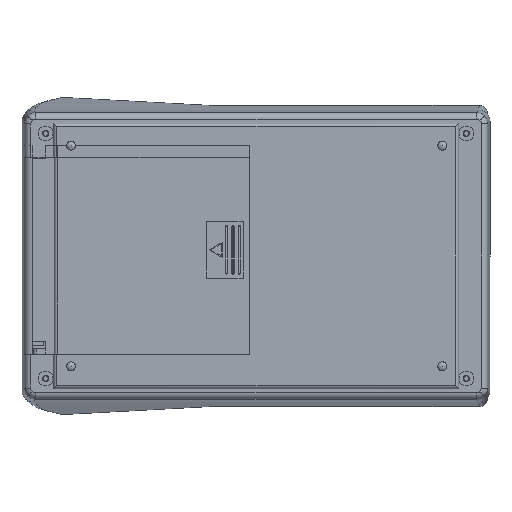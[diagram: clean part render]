
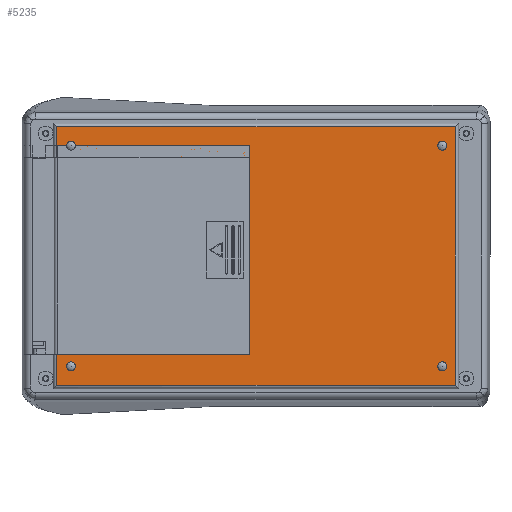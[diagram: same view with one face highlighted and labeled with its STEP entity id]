
A CAD part, front view. The second image highlights one B-rep face of the part: STEP entity #5235.
In plain terms, the highlighted planar face has unit normal (0, -1, 0).
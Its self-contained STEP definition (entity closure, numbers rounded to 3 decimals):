
#228 = CARTESIAN_POINT ( 'NONE',  ( 62., -18., 40.25 ) ) ;
#252 = DIRECTION ( 'NONE',  ( 0., -1., 0. ) ) ;
#264 = LINE ( 'NONE', #654, #9387 ) ;
#314 = DIRECTION ( 'NONE',  ( 0., 0., 1. ) ) ;
#571 = EDGE_CURVE ( 'NONE', #24870, #15686, #19957, .T. ) ;
#615 = LINE ( 'NONE', #7879, #15538 ) ;
#654 = CARTESIAN_POINT ( 'NONE',  ( 63., -18., -40.25 ) ) ;
#765 = VERTEX_POINT ( 'NONE', #13455 ) ;
#900 = CIRCLE ( 'NONE', #8773, 1.4 ) ;
#1559 = DIRECTION ( 'NONE',  ( 0., 0., -1. ) ) ;
#1914 = CARTESIAN_POINT ( 'NONE',  ( -2., -18., 30.5 ) ) ;
#2107 = DIRECTION ( 'NONE',  ( 0., 0., 1. ) ) ;
#2123 = EDGE_CURVE ( 'NONE', #10593, #14682, #5071, .T. ) ;
#2497 = FACE_BOUND ( 'NONE', #4480, .T. ) ;
#2685 = LINE ( 'NONE', #6848, #22818 ) ;
#3038 = VECTOR ( 'NONE', #23839, 1000. ) ;
#3423 = CARTESIAN_POINT ( 'NONE',  ( -57.5, -18., 32.9 ) ) ;
#3526 = VERTEX_POINT ( 'NONE', #21257 ) ;
#3529 = DIRECTION ( 'NONE',  ( 0., -1., 0. ) ) ;
#3785 = CARTESIAN_POINT ( 'NONE',  ( -57.5, -18., -34.3 ) ) ;
#4402 = DIRECTION ( 'NONE',  ( 0., -1., 0. ) ) ;
#4445 = CIRCLE ( 'NONE', #20080, 1.4 ) ;
#4480 = EDGE_LOOP ( 'NONE', ( #20744, #9174 ) ) ;
#4559 = DIRECTION ( 'NONE',  ( -1., 0., 0. ) ) ;
#4708 = AXIS2_PLACEMENT_3D ( 'NONE', #16064, #4402, #18015 ) ;
#5071 = LINE ( 'NONE', #18184, #19369 ) ;
#5192 = VERTEX_POINT ( 'NONE', #10908 ) ;
#5235 = ADVANCED_FACE ( 'NONE', ( #18013, #12828, #8275, #7668, #2497 ), #15173, .T. ) ;
#5330 = EDGE_CURVE ( 'NONE', #18583, #14852, #10383, .T. ) ;
#5692 = LINE ( 'NONE', #10008, #10220 ) ;
#5757 = DIRECTION ( 'NONE',  ( 0., 0., -1. ) ) ;
#6024 = EDGE_LOOP ( 'NONE', ( #18119, #24195 ) ) ;
#6226 = ORIENTED_EDGE ( 'NONE', *, *, #21436, .F. ) ;
#6556 = VERTEX_POINT ( 'NONE', #21610 ) ;
#6597 = ORIENTED_EDGE ( 'NONE', *, *, #21320, .F. ) ;
#6837 = ORIENTED_EDGE ( 'NONE', *, *, #14560, .T. ) ;
#6848 = CARTESIAN_POINT ( 'NONE',  ( -62., -18., -41.25 ) ) ;
#6887 = CARTESIAN_POINT ( 'NONE',  ( 57.9, -18., 35.7 ) ) ;
#7026 = CIRCLE ( 'NONE', #24817, 1.4 ) ;
#7121 = ORIENTED_EDGE ( 'NONE', *, *, #12999, .F. ) ;
#7580 = CIRCLE ( 'NONE', #10058, 1.4 ) ;
#7595 = CARTESIAN_POINT ( 'NONE',  ( -57.5, -18., 35.7 ) ) ;
#7602 = CARTESIAN_POINT ( 'NONE',  ( -2., -18., 30.5 ) ) ;
#7668 = FACE_BOUND ( 'NONE', #21021, .T. ) ;
#7671 = VERTEX_POINT ( 'NONE', #24138 ) ;
#7686 = ORIENTED_EDGE ( 'NONE', *, *, #5330, .F. ) ;
#7879 = CARTESIAN_POINT ( 'NONE',  ( 62., -18., 41.25 ) ) ;
#7919 = DIRECTION ( 'NONE',  ( 0., -1., 0. ) ) ;
#8093 = CIRCLE ( 'NONE', #11875, 1.4 ) ;
#8190 = VERTEX_POINT ( 'NONE', #23594 ) ;
#8275 = FACE_BOUND ( 'NONE', #6024, .T. ) ;
#8773 = AXIS2_PLACEMENT_3D ( 'NONE', #11557, #25222, #13524 ) ;
#8826 = ORIENTED_EDGE ( 'NONE', *, *, #22765, .F. ) ;
#8923 = CARTESIAN_POINT ( 'NONE',  ( 57.9, -18., -35.7 ) ) ;
#8946 = CARTESIAN_POINT ( 'NONE',  ( -57.5, -18., 34.3 ) ) ;
#9174 = ORIENTED_EDGE ( 'NONE', *, *, #23458, .F. ) ;
#9271 = CARTESIAN_POINT ( 'NONE',  ( -62., -18., 40.25 ) ) ;
#9387 = VECTOR ( 'NONE', #12298, 1000. ) ;
#10008 = CARTESIAN_POINT ( 'NONE',  ( -2., -18., -30.5 ) ) ;
#10058 = AXIS2_PLACEMENT_3D ( 'NONE', #11892, #252, #13867 ) ;
#10220 = VECTOR ( 'NONE', #314, 1000. ) ;
#10383 = LINE ( 'NONE', #1914, #16192 ) ;
#10593 = VERTEX_POINT ( 'NONE', #228 ) ;
#10647 = CARTESIAN_POINT ( 'NONE',  ( -62., -18., 30.5 ) ) ;
#10904 = DIRECTION ( 'NONE',  ( 0., 0., -1. ) ) ;
#10908 = CARTESIAN_POINT ( 'NONE',  ( 57.9, -18., 32.9 ) ) ;
#11345 = DIRECTION ( 'NONE',  ( 0., -1., 0. ) ) ;
#11557 = CARTESIAN_POINT ( 'NONE',  ( 57.9, -18., 34.3 ) ) ;
#11875 = AXIS2_PLACEMENT_3D ( 'NONE', #19556, #7919, #21561 ) ;
#11892 = CARTESIAN_POINT ( 'NONE',  ( -57.5, -18., -34.3 ) ) ;
#12298 = DIRECTION ( 'NONE',  ( 1., 0., 0. ) ) ;
#12828 = FACE_OUTER_BOUND ( 'NONE', #21884, .T. ) ;
#12964 = ORIENTED_EDGE ( 'NONE', *, *, #13942, .T. ) ;
#12999 = EDGE_CURVE ( 'NONE', #24048, #3526, #18556, .T. ) ;
#13167 = DIRECTION ( 'NONE',  ( 0., -1., 0. ) ) ;
#13250 = ORIENTED_EDGE ( 'NONE', *, *, #18570, .F. ) ;
#13455 = CARTESIAN_POINT ( 'NONE',  ( 62., -18., -40.25 ) ) ;
#13524 = DIRECTION ( 'NONE',  ( 0., 0., -1. ) ) ;
#13679 = ORIENTED_EDGE ( 'NONE', *, *, #20697, .T. ) ;
#13867 = DIRECTION ( 'NONE',  ( 0., 0., -1. ) ) ;
#13942 = EDGE_CURVE ( 'NONE', #6556, #765, #264, .T. ) ;
#14560 = EDGE_CURVE ( 'NONE', #14682, #14852, #2685, .T. ) ;
#14682 = VERTEX_POINT ( 'NONE', #9271 ) ;
#14852 = VERTEX_POINT ( 'NONE', #10647 ) ;
#15082 = CARTESIAN_POINT ( 'NONE',  ( -63., -18., 41.25 ) ) ;
#15173 = PLANE ( 'NONE',  #24263 ) ;
#15228 = VERTEX_POINT ( 'NONE', #19686 ) ;
#15230 = CARTESIAN_POINT ( 'NONE',  ( -62., -18., -30.5 ) ) ;
#15511 = DIRECTION ( 'NONE',  ( -1., 0., 0. ) ) ;
#15538 = VECTOR ( 'NONE', #2107, 1000. ) ;
#15686 = VERTEX_POINT ( 'NONE', #3423 ) ;
#15942 = EDGE_CURVE ( 'NONE', #3526, #18583, #5692, .T. ) ;
#16064 = CARTESIAN_POINT ( 'NONE',  ( 57.9, -18., -34.3 ) ) ;
#16192 = VECTOR ( 'NONE', #15511, 1000. ) ;
#16785 = ORIENTED_EDGE ( 'NONE', *, *, #2123, .T. ) ;
#16983 = VECTOR ( 'NONE', #23228, 1000. ) ;
#17134 = DIRECTION ( 'NONE',  ( 0., 0., -1. ) ) ;
#17396 = DIRECTION ( 'NONE',  ( 0., -1., 0. ) ) ;
#17623 = AXIS2_PLACEMENT_3D ( 'NONE', #24874, #13167, #1559 ) ;
#18013 = FACE_BOUND ( 'NONE', #24849, .T. ) ;
#18015 = DIRECTION ( 'NONE',  ( 0., 0., -1. ) ) ;
#18119 = ORIENTED_EDGE ( 'NONE', *, *, #22621, .F. ) ;
#18175 = CIRCLE ( 'NONE', #17623, 1.4 ) ;
#18184 = CARTESIAN_POINT ( 'NONE',  ( -63., -18., 40.25 ) ) ;
#18556 = LINE ( 'NONE', #21882, #3038 ) ;
#18570 = EDGE_CURVE ( 'NONE', #15228, #8190, #7026, .T. ) ;
#18583 = VERTEX_POINT ( 'NONE', #7602 ) ;
#19360 = CARTESIAN_POINT ( 'NONE',  ( -62., -18., -41.25 ) ) ;
#19369 = VECTOR ( 'NONE', #4559, 1000. ) ;
#19556 = CARTESIAN_POINT ( 'NONE',  ( 57.9, -18., 34.3 ) ) ;
#19686 = CARTESIAN_POINT ( 'NONE',  ( -57.5, -18., -35.7 ) ) ;
#19945 = ORIENTED_EDGE ( 'NONE', *, *, #15942, .F. ) ;
#19957 = CIRCLE ( 'NONE', #22118, 1.4 ) ;
#20080 = AXIS2_PLACEMENT_3D ( 'NONE', #8946, #22625, #10904 ) ;
#20477 = DIRECTION ( 'NONE',  ( 0., 0., -1. ) ) ;
#20697 = EDGE_CURVE ( 'NONE', #765, #10593, #615, .T. ) ;
#20744 = ORIENTED_EDGE ( 'NONE', *, *, #571, .F. ) ;
#21021 = EDGE_LOOP ( 'NONE', ( #6226, #13250 ) ) ;
#21257 = CARTESIAN_POINT ( 'NONE',  ( -2., -18., -30.5 ) ) ;
#21320 = EDGE_CURVE ( 'NONE', #24415, #5192, #900, .T. ) ;
#21436 = EDGE_CURVE ( 'NONE', #8190, #15228, #7580, .T. ) ;
#21561 = DIRECTION ( 'NONE',  ( 0., 0., -1. ) ) ;
#21610 = CARTESIAN_POINT ( 'NONE',  ( -62., -18., -40.25 ) ) ;
#21882 = CARTESIAN_POINT ( 'NONE',  ( -2., -18., -30.5 ) ) ;
#21884 = EDGE_LOOP ( 'NONE', ( #7686, #19945, #7121, #22741, #12964, #13679, #16785, #6837 ) ) ;
#21996 = EDGE_CURVE ( 'NONE', #23951, #7671, #22827, .T. ) ;
#22118 = AXIS2_PLACEMENT_3D ( 'NONE', #23087, #11345, #25025 ) ;
#22355 = EDGE_CURVE ( 'NONE', #24048, #6556, #24905, .T. ) ;
#22621 = EDGE_CURVE ( 'NONE', #7671, #23951, #18175, .T. ) ;
#22625 = DIRECTION ( 'NONE',  ( 0., -1., 0. ) ) ;
#22741 = ORIENTED_EDGE ( 'NONE', *, *, #22355, .T. ) ;
#22765 = EDGE_CURVE ( 'NONE', #5192, #24415, #8093, .T. ) ;
#22818 = VECTOR ( 'NONE', #20477, 1000. ) ;
#22827 = CIRCLE ( 'NONE', #4708, 1.4 ) ;
#23087 = CARTESIAN_POINT ( 'NONE',  ( -57.5, -18., 34.3 ) ) ;
#23228 = DIRECTION ( 'NONE',  ( 0., 0., -1. ) ) ;
#23458 = EDGE_CURVE ( 'NONE', #15686, #24870, #4445, .T. ) ;
#23594 = CARTESIAN_POINT ( 'NONE',  ( -57.5, -18., -32.9 ) ) ;
#23839 = DIRECTION ( 'NONE',  ( 1., 0., 0. ) ) ;
#23951 = VERTEX_POINT ( 'NONE', #8923 ) ;
#24048 = VERTEX_POINT ( 'NONE', #15230 ) ;
#24138 = CARTESIAN_POINT ( 'NONE',  ( 57.9, -18., -32.9 ) ) ;
#24195 = ORIENTED_EDGE ( 'NONE', *, *, #21996, .F. ) ;
#24263 = AXIS2_PLACEMENT_3D ( 'NONE', #15082, #3529, #17134 ) ;
#24415 = VERTEX_POINT ( 'NONE', #6887 ) ;
#24817 = AXIS2_PLACEMENT_3D ( 'NONE', #3785, #17396, #5757 ) ;
#24849 = EDGE_LOOP ( 'NONE', ( #6597, #8826 ) ) ;
#24870 = VERTEX_POINT ( 'NONE', #7595 ) ;
#24874 = CARTESIAN_POINT ( 'NONE',  ( 57.9, -18., -34.3 ) ) ;
#24905 = LINE ( 'NONE', #19360, #16983 ) ;
#25025 = DIRECTION ( 'NONE',  ( 0., 0., -1. ) ) ;
#25222 = DIRECTION ( 'NONE',  ( 0., -1., 0. ) ) ;
